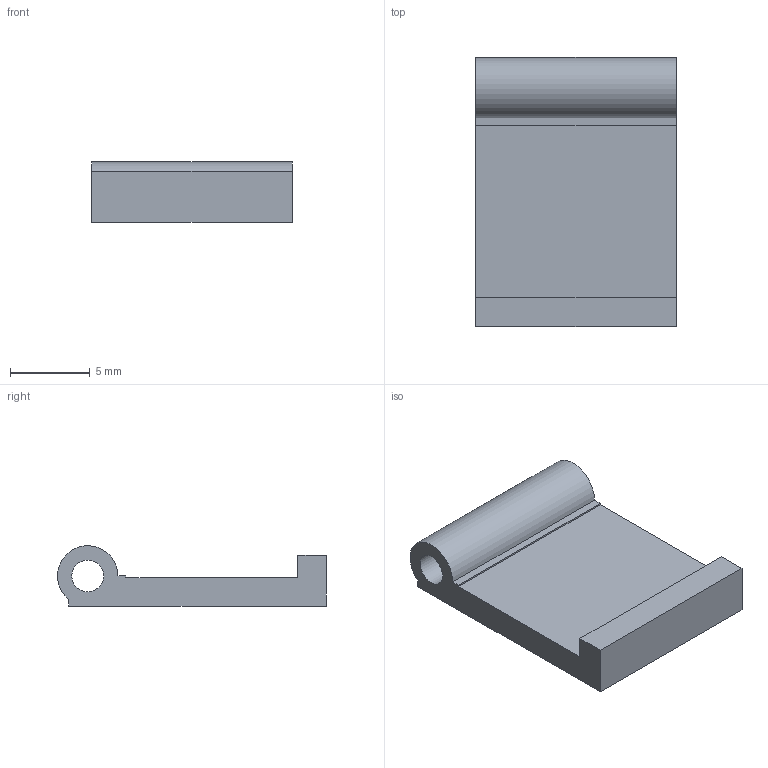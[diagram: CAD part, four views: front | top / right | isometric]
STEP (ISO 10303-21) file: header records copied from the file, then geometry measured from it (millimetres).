
FILE_DESCRIPTION(('Open CASCADE Model'),'2;1');
FILE_NAME('Open CASCADE Shape Model','2026-10-09T15:33:13',('Author'),( 'Open CASCADE'),'Open CASCADE STEP processor 7.9','Open CASCADE 7.9' ,'Unknown');
FILE_SCHEMA(('AUTOMOTIVE_DESIGN { 1 0 10303 214 1 1 1 1 }'));
Length unit declared in the file: millimetre
Products named in the file (1): Open CASCADE STEP translator 7.9 8
Bounding box: 12.6 x 16.9 x 3.8 mm (x, y, z)
Volume: 444.6 mm3; surface area: 680 mm2
Topology: 1 solids, 1 shells, 12 faces, 30 edges, 20 vertices
Faces by surface type: plane 10, cylinder 2
Full cylindrical faces by diameter (mm): 2 x1
Entity records: 771 total; most frequent: CARTESIAN_POINT 141, DIRECTION 117, LINE 82, VECTOR 82, ORIENTED_EDGE 60, PCURVE 60, DEFINITIONAL_REPRESENTATION 60, EDGE_CURVE 30
